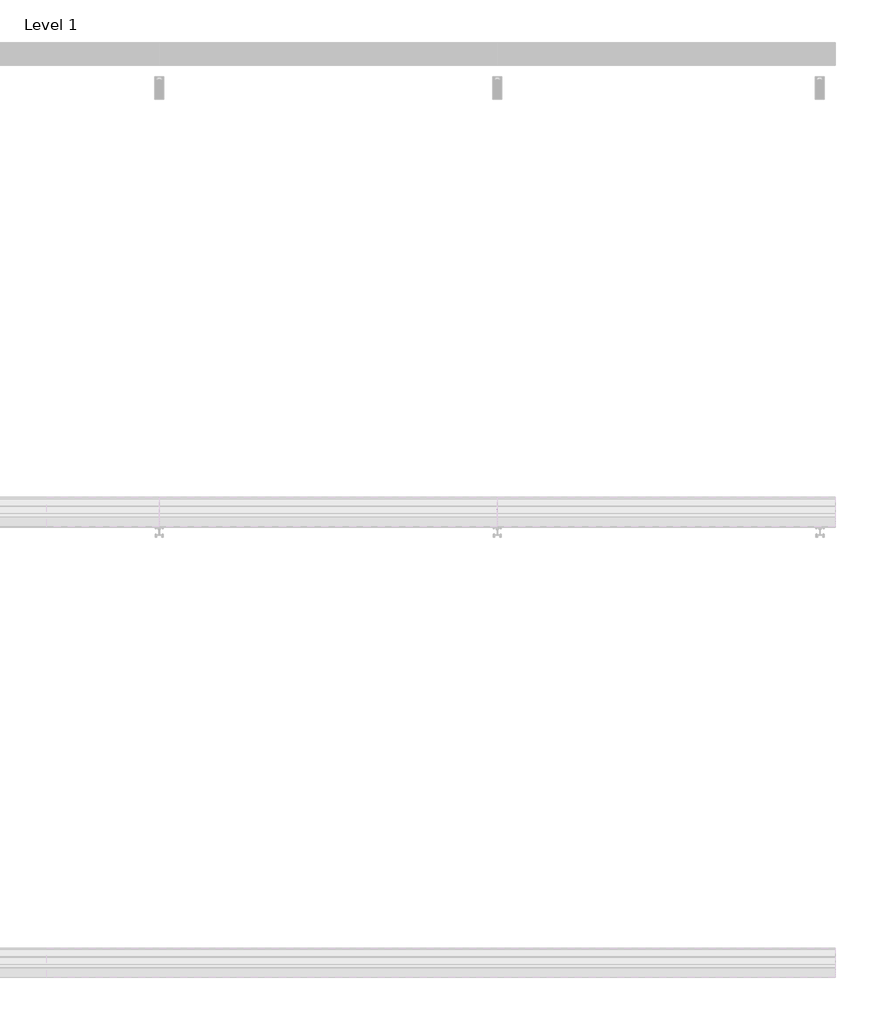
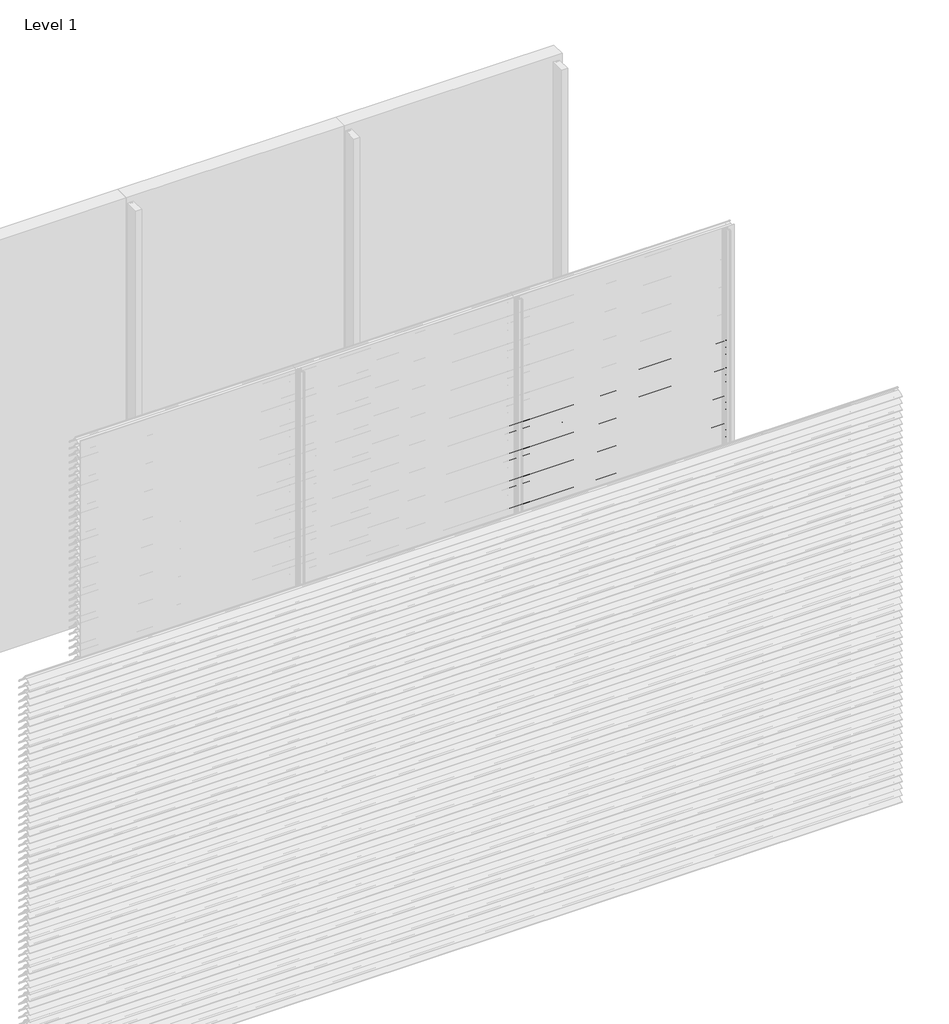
# One storey, part 52 of 173: 17 proxies.
"""IFC4 building model written with IfcOpenShell, lengths in millimetres."""

from ifc_helpers import new_model, si_unit, point, frame, frame_2d, origin, place, context, project, spatial, polyline, circle_curve, trimmed, segment, composite_curve, outline, extrude, element, save

model = new_model("IFC4")

# Units and contexts
model_context = context("Model", 3, world=origin())
ifc_project = project(units=[si_unit("LENGTHUNIT", "METRE", prefix="MILLI")], contexts=[model_context])

# Site, building, storey
site = spatial("IfcSite", under=ifc_project)
building = spatial("IfcBuilding", under=site)
storey = spatial("IfcBuildingStorey", under=building, Name="Level 1", Elevation=0.0)

# Proxies
placement = place(None, origin())
element("IfcBuildingElementProxy", 1, Name="Wall Sweeps", at=placement, inside=storey, context=model_context, shape_type="SweptSolid", body=[
    extrude(outline(composite_curve([segment(polyline([(-41998.0, 2109.1474905), (-41998.0, 2111.6227417)]), True, "CONTINUOUS"), segment(trimmed(circle_curve(frame_2d((-41951.2682172, 2066.2200208)), 65.1557103), [point((-41998.0, 2111.6227417))], [point((-41954.4014323, 2131.3003524))], False, "CARTESIAN"), True, "CONTINUOUS"), segment(polyline([(-41954.4014323, 2131.3003524), (-41934.8315836, 2131.3003524)]), True, "CONTINUOUS"), segment(trimmed(circle_curve(frame_2d((-41732.7329489, 2278.5533172)), 250.0545817), [point((-41934.8315836, 2131.3003524))], [point((-41941.4452143, 2140.8344583))], False, "CARTESIAN"), True, "CONTINUOUS"), segment(trimmed(circle_curve(frame_2d((-41953.2981792, 2135.1737835)), 13.1352966), [point((-41941.4452143, 2140.8344583))], [point((-41953.8171475, 2148.298824))], True, "CARTESIAN"), True, "CONTINUOUS"), segment(polyline([(-41953.8171475, 2148.298824), (-41953.8171475, 2150.0)]), True, "CONTINUOUS"), segment(trimmed(circle_curve(frame_2d((-41953.2981792, 2135.1737835)), 14.8352966), [point((-41953.8171475, 2150.0))], [point((-41939.9637661, 2141.6760487))], False, "CARTESIAN"), True, "CONTINUOUS"), segment(trimmed(circle_curve(frame_2d((-41732.7329489, 2278.5533172)), 248.3545817), [point((-41939.9637661, 2141.6760487))], [point((-41873.8787895, 2074.2059416))], True, "CARTESIAN"), True, "CONTINUOUS"), segment(trimmed(circle_curve(frame_2d((-41883.8147537, 2061.6649442)), 16.0), [point((-41873.8787895, 2074.2059416))], [point((-41867.8648347, 2060.4))], False, "CARTESIAN"), True, "CONTINUOUS"), segment(polyline([(-41867.8648347, 2060.4), (-41869.6712069, 2060.4)]), True, "CONTINUOUS"), segment(trimmed(circle_curve(frame_2d((-41883.8147537, 2061.6649442)), 14.2), [point((-41869.6712069, 2060.4))], [point((-41874.9518628, 2072.7594998))], True, "CARTESIAN"), True, "CONTINUOUS"), segment(trimmed(circle_curve(frame_2d((-41732.7329489, 2278.5533172)), 250.1545817), [point((-41874.9518628, 2072.7594998))], [point((-41933.7064024, 2129.6003524))], False, "CARTESIAN"), True, "CONTINUOUS"), segment(polyline([(-41933.7064024, 2129.6003524), (-41954.3602632, 2129.6003524)]), True, "CONTINUOUS"), segment(trimmed(circle_curve(frame_2d((-41951.2682172, 2066.2200208)), 63.4557103), [point((-41954.3602632, 2129.6003524))], [point((-41998.0, 2109.1474905))], True, "CARTESIAN"), True, "CONTINUOUS")], self_intersect=False)), frame((4500.0, 0.0, 0.0), z_axis=(1.0, 0.0, 0.0), x_axis=(0.0, 1.0, 0.0)), (0.0, 0.0, 1.0), 1500.0),
])
element("IfcBuildingElementProxy", 2, Name="Wall Sweeps", at=placement, inside=storey, context=model_context, shape_type="SweptSolid", body=[
    extrude(outline(composite_curve([segment(polyline([(-41998.0, 2059.1474905), (-41998.0, 2061.6227417)]), True, "CONTINUOUS"), segment(trimmed(circle_curve(frame_2d((-41951.2682172, 2016.2200208)), 65.1557103), [point((-41998.0, 2061.6227417))], [point((-41954.4014323, 2081.3003524))], False, "CARTESIAN"), True, "CONTINUOUS"), segment(polyline([(-41954.4014323, 2081.3003524), (-41934.8315836, 2081.3003524)]), True, "CONTINUOUS"), segment(trimmed(circle_curve(frame_2d((-41732.7329489, 2228.5533172)), 250.0545817), [point((-41934.8315836, 2081.3003524))], [point((-41941.4452143, 2090.8344583))], False, "CARTESIAN"), True, "CONTINUOUS"), segment(trimmed(circle_curve(frame_2d((-41953.2981792, 2085.1737835)), 13.1352966), [point((-41941.4452143, 2090.8344583))], [point((-41953.8171475, 2098.298824))], True, "CARTESIAN"), True, "CONTINUOUS"), segment(polyline([(-41953.8171475, 2098.298824), (-41953.8171475, 2100.0)]), True, "CONTINUOUS"), segment(trimmed(circle_curve(frame_2d((-41953.2981792, 2085.1737835)), 14.8352966), [point((-41953.8171475, 2100.0))], [point((-41939.9637661, 2091.6760487))], False, "CARTESIAN"), True, "CONTINUOUS"), segment(trimmed(circle_curve(frame_2d((-41732.7329489, 2228.5533172)), 248.3545817), [point((-41939.9637661, 2091.6760487))], [point((-41873.8787895, 2024.2059416))], True, "CARTESIAN"), True, "CONTINUOUS"), segment(trimmed(circle_curve(frame_2d((-41883.8147537, 2011.6649442)), 16.0), [point((-41873.8787895, 2024.2059416))], [point((-41867.8648347, 2010.4))], False, "CARTESIAN"), True, "CONTINUOUS"), segment(polyline([(-41867.8648347, 2010.4), (-41869.6712069, 2010.4)]), True, "CONTINUOUS"), segment(trimmed(circle_curve(frame_2d((-41883.8147537, 2011.6649442)), 14.2), [point((-41869.6712069, 2010.4))], [point((-41874.9518628, 2022.7594998))], True, "CARTESIAN"), True, "CONTINUOUS"), segment(trimmed(circle_curve(frame_2d((-41732.7329489, 2228.5533172)), 250.1545817), [point((-41874.9518628, 2022.7594998))], [point((-41933.7064024, 2079.6003524))], False, "CARTESIAN"), True, "CONTINUOUS"), segment(polyline([(-41933.7064024, 2079.6003524), (-41954.3602632, 2079.6003524)]), True, "CONTINUOUS"), segment(trimmed(circle_curve(frame_2d((-41951.2682172, 2016.2200208)), 63.4557103), [point((-41954.3602632, 2079.6003524))], [point((-41998.0, 2059.1474905))], True, "CARTESIAN"), True, "CONTINUOUS")], self_intersect=False)), frame((4500.0, 0.0, 0.0), z_axis=(1.0, 0.0, 0.0), x_axis=(0.0, 1.0, 0.0)), (0.0, 0.0, 1.0), 1500.0),
])
element("IfcBuildingElementProxy", 3, Name="Wall Sweeps", at=placement, inside=storey, context=model_context, shape_type="SweptSolid", body=[
    extrude(outline(composite_curve([segment(polyline([(-41998.0, 2009.1474905), (-41998.0, 2011.6227417)]), True, "CONTINUOUS"), segment(trimmed(circle_curve(frame_2d((-41951.2682172, 1966.2200208)), 65.1557103), [point((-41998.0, 2011.6227417))], [point((-41954.4014323, 2031.3003524))], False, "CARTESIAN"), True, "CONTINUOUS"), segment(polyline([(-41954.4014323, 2031.3003524), (-41934.8315836, 2031.3003524)]), True, "CONTINUOUS"), segment(trimmed(circle_curve(frame_2d((-41732.7329489, 2178.5533172)), 250.0545817), [point((-41934.8315836, 2031.3003524))], [point((-41941.4452143, 2040.8344583))], False, "CARTESIAN"), True, "CONTINUOUS"), segment(trimmed(circle_curve(frame_2d((-41953.2981792, 2035.1737835)), 13.1352966), [point((-41941.4452143, 2040.8344583))], [point((-41953.8171475, 2048.298824))], True, "CARTESIAN"), True, "CONTINUOUS"), segment(polyline([(-41953.8171475, 2048.298824), (-41953.8171475, 2050.0)]), True, "CONTINUOUS"), segment(trimmed(circle_curve(frame_2d((-41953.2981792, 2035.1737835)), 14.8352966), [point((-41953.8171475, 2050.0))], [point((-41939.9637661, 2041.6760487))], False, "CARTESIAN"), True, "CONTINUOUS"), segment(trimmed(circle_curve(frame_2d((-41732.7329489, 2178.5533172)), 248.3545817), [point((-41939.9637661, 2041.6760487))], [point((-41873.8787895, 1974.2059416))], True, "CARTESIAN"), True, "CONTINUOUS"), segment(trimmed(circle_curve(frame_2d((-41883.8147537, 1961.6649442)), 16.0), [point((-41873.8787895, 1974.2059416))], [point((-41867.8648347, 1960.4))], False, "CARTESIAN"), True, "CONTINUOUS"), segment(polyline([(-41867.8648347, 1960.4), (-41869.6712069, 1960.4)]), True, "CONTINUOUS"), segment(trimmed(circle_curve(frame_2d((-41883.8147537, 1961.6649442)), 14.2), [point((-41869.6712069, 1960.4))], [point((-41874.9518628, 1972.7594998))], True, "CARTESIAN"), True, "CONTINUOUS"), segment(trimmed(circle_curve(frame_2d((-41732.7329489, 2178.5533172)), 250.1545817), [point((-41874.9518628, 1972.7594998))], [point((-41933.7064024, 2029.6003524))], False, "CARTESIAN"), True, "CONTINUOUS"), segment(polyline([(-41933.7064024, 2029.6003524), (-41954.3602632, 2029.6003524)]), True, "CONTINUOUS"), segment(trimmed(circle_curve(frame_2d((-41951.2682172, 1966.2200208)), 63.4557103), [point((-41954.3602632, 2029.6003524))], [point((-41998.0, 2009.1474905))], True, "CARTESIAN"), True, "CONTINUOUS")], self_intersect=False)), frame((4500.0, 0.0, 0.0), z_axis=(1.0, 0.0, 0.0), x_axis=(0.0, 1.0, 0.0)), (0.0, 0.0, 1.0), 1500.0),
])
element("IfcBuildingElementProxy", 4, Name="Wall Sweeps", at=placement, inside=storey, context=model_context, shape_type="SweptSolid", body=[
    extrude(outline(composite_curve([segment(polyline([(-41998.0, 1959.1474905), (-41998.0, 1961.6227417)]), True, "CONTINUOUS"), segment(trimmed(circle_curve(frame_2d((-41951.2682172, 1916.2200208)), 65.1557103), [point((-41998.0, 1961.6227417))], [point((-41954.4014323, 1981.3003524))], False, "CARTESIAN"), True, "CONTINUOUS"), segment(polyline([(-41954.4014323, 1981.3003524), (-41934.8315836, 1981.3003524)]), True, "CONTINUOUS"), segment(trimmed(circle_curve(frame_2d((-41732.7329489, 2128.5533172)), 250.0545817), [point((-41934.8315836, 1981.3003524))], [point((-41941.4452143, 1990.8344583))], False, "CARTESIAN"), True, "CONTINUOUS"), segment(trimmed(circle_curve(frame_2d((-41953.2981792, 1985.1737835)), 13.1352966), [point((-41941.4452143, 1990.8344583))], [point((-41953.8171475, 1998.298824))], True, "CARTESIAN"), True, "CONTINUOUS"), segment(polyline([(-41953.8171475, 1998.298824), (-41953.8171475, 2000.0)]), True, "CONTINUOUS"), segment(trimmed(circle_curve(frame_2d((-41953.2981792, 1985.1737835)), 14.8352966), [point((-41953.8171475, 2000.0))], [point((-41939.9637661, 1991.6760487))], False, "CARTESIAN"), True, "CONTINUOUS"), segment(trimmed(circle_curve(frame_2d((-41732.7329489, 2128.5533172)), 248.3545817), [point((-41939.9637661, 1991.6760487))], [point((-41873.8787895, 1924.2059416))], True, "CARTESIAN"), True, "CONTINUOUS"), segment(trimmed(circle_curve(frame_2d((-41883.8147537, 1911.6649442)), 16.0), [point((-41873.8787895, 1924.2059416))], [point((-41867.8648347, 1910.4))], False, "CARTESIAN"), True, "CONTINUOUS"), segment(polyline([(-41867.8648347, 1910.4), (-41869.6712069, 1910.4)]), True, "CONTINUOUS"), segment(trimmed(circle_curve(frame_2d((-41883.8147537, 1911.6649442)), 14.2), [point((-41869.6712069, 1910.4))], [point((-41874.9518628, 1922.7594998))], True, "CARTESIAN"), True, "CONTINUOUS"), segment(trimmed(circle_curve(frame_2d((-41732.7329489, 2128.5533172)), 250.1545817), [point((-41874.9518628, 1922.7594998))], [point((-41933.7064024, 1979.6003524))], False, "CARTESIAN"), True, "CONTINUOUS"), segment(polyline([(-41933.7064024, 1979.6003524), (-41954.3602632, 1979.6003524)]), True, "CONTINUOUS"), segment(trimmed(circle_curve(frame_2d((-41951.2682172, 1916.2200208)), 63.4557103), [point((-41954.3602632, 1979.6003524))], [point((-41998.0, 1959.1474905))], True, "CARTESIAN"), True, "CONTINUOUS")], self_intersect=False)), frame((4500.0, 0.0, 0.0), z_axis=(1.0, 0.0, 0.0), x_axis=(0.0, 1.0, 0.0)), (0.0, 0.0, 1.0), 1500.0),
])
element("IfcBuildingElementProxy", 5, Name="Wall Sweeps", at=placement, inside=storey, context=model_context, shape_type="SweptSolid", body=[
    extrude(outline(composite_curve([segment(polyline([(-41998.0, 1909.1474905), (-41998.0, 1911.6227417)]), True, "CONTINUOUS"), segment(trimmed(circle_curve(frame_2d((-41951.2682172, 1866.2200208)), 65.1557103), [point((-41998.0, 1911.6227417))], [point((-41954.4014323, 1931.3003524))], False, "CARTESIAN"), True, "CONTINUOUS"), segment(polyline([(-41954.4014323, 1931.3003524), (-41934.8315836, 1931.3003524)]), True, "CONTINUOUS"), segment(trimmed(circle_curve(frame_2d((-41732.7329489, 2078.5533172)), 250.0545817), [point((-41934.8315836, 1931.3003524))], [point((-41941.4452143, 1940.8344583))], False, "CARTESIAN"), True, "CONTINUOUS"), segment(trimmed(circle_curve(frame_2d((-41953.2981792, 1935.1737835)), 13.1352966), [point((-41941.4452143, 1940.8344583))], [point((-41953.8171475, 1948.298824))], True, "CARTESIAN"), True, "CONTINUOUS"), segment(polyline([(-41953.8171475, 1948.298824), (-41953.8171475, 1950.0)]), True, "CONTINUOUS"), segment(trimmed(circle_curve(frame_2d((-41953.2981792, 1935.1737835)), 14.8352966), [point((-41953.8171475, 1950.0))], [point((-41939.9637661, 1941.6760487))], False, "CARTESIAN"), True, "CONTINUOUS"), segment(trimmed(circle_curve(frame_2d((-41732.7329489, 2078.5533172)), 248.3545817), [point((-41939.9637661, 1941.6760487))], [point((-41873.8787895, 1874.2059416))], True, "CARTESIAN"), True, "CONTINUOUS"), segment(trimmed(circle_curve(frame_2d((-41883.8147537, 1861.6649442)), 16.0), [point((-41873.8787895, 1874.2059416))], [point((-41867.8648347, 1860.4))], False, "CARTESIAN"), True, "CONTINUOUS"), segment(polyline([(-41867.8648347, 1860.4), (-41869.6712069, 1860.4)]), True, "CONTINUOUS"), segment(trimmed(circle_curve(frame_2d((-41883.8147537, 1861.6649442)), 14.2), [point((-41869.6712069, 1860.4))], [point((-41874.9518628, 1872.7594998))], True, "CARTESIAN"), True, "CONTINUOUS"), segment(trimmed(circle_curve(frame_2d((-41732.7329489, 2078.5533172)), 250.1545817), [point((-41874.9518628, 1872.7594998))], [point((-41933.7064024, 1929.6003524))], False, "CARTESIAN"), True, "CONTINUOUS"), segment(polyline([(-41933.7064024, 1929.6003524), (-41954.3602632, 1929.6003524)]), True, "CONTINUOUS"), segment(trimmed(circle_curve(frame_2d((-41951.2682172, 1866.2200208)), 63.4557103), [point((-41954.3602632, 1929.6003524))], [point((-41998.0, 1909.1474905))], True, "CARTESIAN"), True, "CONTINUOUS")], self_intersect=False)), frame((4500.0, 0.0, 0.0), z_axis=(1.0, 0.0, 0.0), x_axis=(0.0, 1.0, 0.0)), (0.0, 0.0, 1.0), 1500.0),
])
element("IfcBuildingElementProxy", 6, Name="Wall Sweeps", at=placement, inside=storey, context=model_context, shape_type="SweptSolid", body=[
    extrude(outline(composite_curve([segment(polyline([(-41998.0, 1859.1474905), (-41998.0, 1861.6227417)]), True, "CONTINUOUS"), segment(trimmed(circle_curve(frame_2d((-41951.2682172, 1816.2200208)), 65.1557103), [point((-41998.0, 1861.6227417))], [point((-41954.4014323, 1881.3003524))], False, "CARTESIAN"), True, "CONTINUOUS"), segment(polyline([(-41954.4014323, 1881.3003524), (-41934.8315836, 1881.3003524)]), True, "CONTINUOUS"), segment(trimmed(circle_curve(frame_2d((-41732.7329489, 2028.5533172)), 250.0545817), [point((-41934.8315836, 1881.3003524))], [point((-41941.4452143, 1890.8344583))], False, "CARTESIAN"), True, "CONTINUOUS"), segment(trimmed(circle_curve(frame_2d((-41953.2981792, 1885.1737835)), 13.1352966), [point((-41941.4452143, 1890.8344583))], [point((-41953.8171475, 1898.298824))], True, "CARTESIAN"), True, "CONTINUOUS"), segment(polyline([(-41953.8171475, 1898.298824), (-41953.8171475, 1900.0)]), True, "CONTINUOUS"), segment(trimmed(circle_curve(frame_2d((-41953.2981792, 1885.1737835)), 14.8352966), [point((-41953.8171475, 1900.0))], [point((-41939.9637661, 1891.6760487))], False, "CARTESIAN"), True, "CONTINUOUS"), segment(trimmed(circle_curve(frame_2d((-41732.7329489, 2028.5533172)), 248.3545817), [point((-41939.9637661, 1891.6760487))], [point((-41873.8787895, 1824.2059416))], True, "CARTESIAN"), True, "CONTINUOUS"), segment(trimmed(circle_curve(frame_2d((-41883.8147537, 1811.6649442)), 16.0), [point((-41873.8787895, 1824.2059416))], [point((-41867.8648347, 1810.4))], False, "CARTESIAN"), True, "CONTINUOUS"), segment(polyline([(-41867.8648347, 1810.4), (-41869.6712069, 1810.4)]), True, "CONTINUOUS"), segment(trimmed(circle_curve(frame_2d((-41883.8147537, 1811.6649442)), 14.2), [point((-41869.6712069, 1810.4))], [point((-41874.9518628, 1822.7594998))], True, "CARTESIAN"), True, "CONTINUOUS"), segment(trimmed(circle_curve(frame_2d((-41732.7329489, 2028.5533172)), 250.1545817), [point((-41874.9518628, 1822.7594998))], [point((-41933.7064024, 1879.6003524))], False, "CARTESIAN"), True, "CONTINUOUS"), segment(polyline([(-41933.7064024, 1879.6003524), (-41954.3602632, 1879.6003524)]), True, "CONTINUOUS"), segment(trimmed(circle_curve(frame_2d((-41951.2682172, 1816.2200208)), 63.4557103), [point((-41954.3602632, 1879.6003524))], [point((-41998.0, 1859.1474905))], True, "CARTESIAN"), True, "CONTINUOUS")], self_intersect=False)), frame((4500.0, 0.0, 0.0), z_axis=(1.0, 0.0, 0.0), x_axis=(0.0, 1.0, 0.0)), (0.0, 0.0, 1.0), 1500.0),
])
element("IfcBuildingElementProxy", 7, Name="Wall Sweeps", at=placement, inside=storey, context=model_context, shape_type="SweptSolid", body=[
    extrude(outline(composite_curve([segment(polyline([(-41998.0, 1809.1474905), (-41998.0, 1811.6227417)]), True, "CONTINUOUS"), segment(trimmed(circle_curve(frame_2d((-41951.2682172, 1766.2200208)), 65.1557103), [point((-41998.0, 1811.6227417))], [point((-41954.4014323, 1831.3003524))], False, "CARTESIAN"), True, "CONTINUOUS"), segment(polyline([(-41954.4014323, 1831.3003524), (-41934.8315836, 1831.3003524)]), True, "CONTINUOUS"), segment(trimmed(circle_curve(frame_2d((-41732.7329489, 1978.5533172)), 250.0545817), [point((-41934.8315836, 1831.3003524))], [point((-41941.4452143, 1840.8344583))], False, "CARTESIAN"), True, "CONTINUOUS"), segment(trimmed(circle_curve(frame_2d((-41953.2981792, 1835.1737835)), 13.1352966), [point((-41941.4452143, 1840.8344583))], [point((-41953.8171475, 1848.298824))], True, "CARTESIAN"), True, "CONTINUOUS"), segment(polyline([(-41953.8171475, 1848.298824), (-41953.8171475, 1850.0)]), True, "CONTINUOUS"), segment(trimmed(circle_curve(frame_2d((-41953.2981792, 1835.1737835)), 14.8352966), [point((-41953.8171475, 1850.0))], [point((-41939.9637661, 1841.6760487))], False, "CARTESIAN"), True, "CONTINUOUS"), segment(trimmed(circle_curve(frame_2d((-41732.7329489, 1978.5533172)), 248.3545817), [point((-41939.9637661, 1841.6760487))], [point((-41873.8787895, 1774.2059416))], True, "CARTESIAN"), True, "CONTINUOUS"), segment(trimmed(circle_curve(frame_2d((-41883.8147537, 1761.6649442)), 16.0), [point((-41873.8787895, 1774.2059416))], [point((-41867.8648347, 1760.4))], False, "CARTESIAN"), True, "CONTINUOUS"), segment(polyline([(-41867.8648347, 1760.4), (-41869.6712069, 1760.4)]), True, "CONTINUOUS"), segment(trimmed(circle_curve(frame_2d((-41883.8147537, 1761.6649442)), 14.2), [point((-41869.6712069, 1760.4))], [point((-41874.9518628, 1772.7594998))], True, "CARTESIAN"), True, "CONTINUOUS"), segment(trimmed(circle_curve(frame_2d((-41732.7329489, 1978.5533172)), 250.1545817), [point((-41874.9518628, 1772.7594998))], [point((-41933.7064024, 1829.6003524))], False, "CARTESIAN"), True, "CONTINUOUS"), segment(polyline([(-41933.7064024, 1829.6003524), (-41954.3602632, 1829.6003524)]), True, "CONTINUOUS"), segment(trimmed(circle_curve(frame_2d((-41951.2682172, 1766.2200208)), 63.4557103), [point((-41954.3602632, 1829.6003524))], [point((-41998.0, 1809.1474905))], True, "CARTESIAN"), True, "CONTINUOUS")], self_intersect=False)), frame((4500.0, 0.0, 0.0), z_axis=(1.0, 0.0, 0.0), x_axis=(0.0, 1.0, 0.0)), (0.0, 0.0, 1.0), 1500.0),
])
element("IfcBuildingElementProxy", 8, Name="Wall Sweeps", at=placement, inside=storey, context=model_context, shape_type="SweptSolid", body=[
    extrude(outline(composite_curve([segment(polyline([(-41998.0, 1759.1474905), (-41998.0, 1761.6227417)]), True, "CONTINUOUS"), segment(trimmed(circle_curve(frame_2d((-41951.2682172, 1716.2200208)), 65.1557103), [point((-41998.0, 1761.6227417))], [point((-41954.4014323, 1781.3003524))], False, "CARTESIAN"), True, "CONTINUOUS"), segment(polyline([(-41954.4014323, 1781.3003524), (-41934.8315836, 1781.3003524)]), True, "CONTINUOUS"), segment(trimmed(circle_curve(frame_2d((-41732.7329489, 1928.5533172)), 250.0545817), [point((-41934.8315836, 1781.3003524))], [point((-41941.4452143, 1790.8344583))], False, "CARTESIAN"), True, "CONTINUOUS"), segment(trimmed(circle_curve(frame_2d((-41953.2981792, 1785.1737835)), 13.1352966), [point((-41941.4452143, 1790.8344583))], [point((-41953.8171475, 1798.298824))], True, "CARTESIAN"), True, "CONTINUOUS"), segment(polyline([(-41953.8171475, 1798.298824), (-41953.8171475, 1800.0)]), True, "CONTINUOUS"), segment(trimmed(circle_curve(frame_2d((-41953.2981792, 1785.1737835)), 14.8352966), [point((-41953.8171475, 1800.0))], [point((-41939.9637661, 1791.6760487))], False, "CARTESIAN"), True, "CONTINUOUS"), segment(trimmed(circle_curve(frame_2d((-41732.7329489, 1928.5533172)), 248.3545817), [point((-41939.9637661, 1791.6760487))], [point((-41873.8787895, 1724.2059416))], True, "CARTESIAN"), True, "CONTINUOUS"), segment(trimmed(circle_curve(frame_2d((-41883.8147537, 1711.6649442)), 16.0), [point((-41873.8787895, 1724.2059416))], [point((-41867.8648347, 1710.4))], False, "CARTESIAN"), True, "CONTINUOUS"), segment(polyline([(-41867.8648347, 1710.4), (-41869.6712069, 1710.4)]), True, "CONTINUOUS"), segment(trimmed(circle_curve(frame_2d((-41883.8147537, 1711.6649442)), 14.2), [point((-41869.6712069, 1710.4))], [point((-41874.9518628, 1722.7594998))], True, "CARTESIAN"), True, "CONTINUOUS"), segment(trimmed(circle_curve(frame_2d((-41732.7329489, 1928.5533172)), 250.1545817), [point((-41874.9518628, 1722.7594998))], [point((-41933.7064024, 1779.6003524))], False, "CARTESIAN"), True, "CONTINUOUS"), segment(polyline([(-41933.7064024, 1779.6003524), (-41954.3602632, 1779.6003524)]), True, "CONTINUOUS"), segment(trimmed(circle_curve(frame_2d((-41951.2682172, 1716.2200208)), 63.4557103), [point((-41954.3602632, 1779.6003524))], [point((-41998.0, 1759.1474905))], True, "CARTESIAN"), True, "CONTINUOUS")], self_intersect=False)), frame((4500.0, 0.0, 0.0), z_axis=(1.0, 0.0, 0.0), x_axis=(0.0, 1.0, 0.0)), (0.0, 0.0, 1.0), 1500.0),
])
element("IfcBuildingElementProxy", 9, Name="Wall Sweeps", at=placement, inside=storey, context=model_context, shape_type="SweptSolid", body=[
    extrude(outline(composite_curve([segment(polyline([(-41998.0, 1709.1474905), (-41998.0, 1711.6227417)]), True, "CONTINUOUS"), segment(trimmed(circle_curve(frame_2d((-41951.2682172, 1666.2200208)), 65.1557103), [point((-41998.0, 1711.6227417))], [point((-41954.4014323, 1731.3003524))], False, "CARTESIAN"), True, "CONTINUOUS"), segment(polyline([(-41954.4014323, 1731.3003524), (-41934.8315836, 1731.3003524)]), True, "CONTINUOUS"), segment(trimmed(circle_curve(frame_2d((-41732.7329489, 1878.5533172)), 250.0545817), [point((-41934.8315836, 1731.3003524))], [point((-41941.4452143, 1740.8344583))], False, "CARTESIAN"), True, "CONTINUOUS"), segment(trimmed(circle_curve(frame_2d((-41953.2981792, 1735.1737835)), 13.1352966), [point((-41941.4452143, 1740.8344583))], [point((-41953.8171475, 1748.298824))], True, "CARTESIAN"), True, "CONTINUOUS"), segment(polyline([(-41953.8171475, 1748.298824), (-41953.8171475, 1750.0)]), True, "CONTINUOUS"), segment(trimmed(circle_curve(frame_2d((-41953.2981792, 1735.1737835)), 14.8352966), [point((-41953.8171475, 1750.0))], [point((-41939.9637661, 1741.6760487))], False, "CARTESIAN"), True, "CONTINUOUS"), segment(trimmed(circle_curve(frame_2d((-41732.7329489, 1878.5533172)), 248.3545817), [point((-41939.9637661, 1741.6760487))], [point((-41873.8787895, 1674.2059416))], True, "CARTESIAN"), True, "CONTINUOUS"), segment(trimmed(circle_curve(frame_2d((-41883.8147537, 1661.6649442)), 16.0), [point((-41873.8787895, 1674.2059416))], [point((-41867.8648347, 1660.4))], False, "CARTESIAN"), True, "CONTINUOUS"), segment(polyline([(-41867.8648347, 1660.4), (-41869.6712069, 1660.4)]), True, "CONTINUOUS"), segment(trimmed(circle_curve(frame_2d((-41883.8147537, 1661.6649442)), 14.2), [point((-41869.6712069, 1660.4))], [point((-41874.9518628, 1672.7594998))], True, "CARTESIAN"), True, "CONTINUOUS"), segment(trimmed(circle_curve(frame_2d((-41732.7329489, 1878.5533172)), 250.1545817), [point((-41874.9518628, 1672.7594998))], [point((-41933.7064024, 1729.6003524))], False, "CARTESIAN"), True, "CONTINUOUS"), segment(polyline([(-41933.7064024, 1729.6003524), (-41954.3602632, 1729.6003524)]), True, "CONTINUOUS"), segment(trimmed(circle_curve(frame_2d((-41951.2682172, 1666.2200208)), 63.4557103), [point((-41954.3602632, 1729.6003524))], [point((-41998.0, 1709.1474905))], True, "CARTESIAN"), True, "CONTINUOUS")], self_intersect=False)), frame((4500.0, 0.0, 0.0), z_axis=(1.0, 0.0, 0.0), x_axis=(0.0, 1.0, 0.0)), (0.0, 0.0, 1.0), 1500.0),
])
element("IfcBuildingElementProxy", 10, Name="Wall Sweeps", at=placement, inside=storey, context=model_context, shape_type="SweptSolid", body=[
    extrude(outline(composite_curve([segment(polyline([(-41998.0, 1659.1474905), (-41998.0, 1661.6227417)]), True, "CONTINUOUS"), segment(trimmed(circle_curve(frame_2d((-41951.2682172, 1616.2200208)), 65.1557103), [point((-41998.0, 1661.6227417))], [point((-41954.4014323, 1681.3003524))], False, "CARTESIAN"), True, "CONTINUOUS"), segment(polyline([(-41954.4014323, 1681.3003524), (-41934.8315836, 1681.3003524)]), True, "CONTINUOUS"), segment(trimmed(circle_curve(frame_2d((-41732.7329489, 1828.5533172)), 250.0545817), [point((-41934.8315836, 1681.3003524))], [point((-41941.4452143, 1690.8344583))], False, "CARTESIAN"), True, "CONTINUOUS"), segment(trimmed(circle_curve(frame_2d((-41953.2981792, 1685.1737835)), 13.1352966), [point((-41941.4452143, 1690.8344583))], [point((-41953.8171475, 1698.298824))], True, "CARTESIAN"), True, "CONTINUOUS"), segment(polyline([(-41953.8171475, 1698.298824), (-41953.8171475, 1700.0)]), True, "CONTINUOUS"), segment(trimmed(circle_curve(frame_2d((-41953.2981792, 1685.1737835)), 14.8352966), [point((-41953.8171475, 1700.0))], [point((-41939.9637661, 1691.6760487))], False, "CARTESIAN"), True, "CONTINUOUS"), segment(trimmed(circle_curve(frame_2d((-41732.7329489, 1828.5533172)), 248.3545817), [point((-41939.9637661, 1691.6760487))], [point((-41873.8787895, 1624.2059416))], True, "CARTESIAN"), True, "CONTINUOUS"), segment(trimmed(circle_curve(frame_2d((-41883.8147537, 1611.6649442)), 16.0), [point((-41873.8787895, 1624.2059416))], [point((-41867.8648347, 1610.4))], False, "CARTESIAN"), True, "CONTINUOUS"), segment(polyline([(-41867.8648347, 1610.4), (-41869.6712069, 1610.4)]), True, "CONTINUOUS"), segment(trimmed(circle_curve(frame_2d((-41883.8147537, 1611.6649442)), 14.2), [point((-41869.6712069, 1610.4))], [point((-41874.9518628, 1622.7594998))], True, "CARTESIAN"), True, "CONTINUOUS"), segment(trimmed(circle_curve(frame_2d((-41732.7329489, 1828.5533172)), 250.1545817), [point((-41874.9518628, 1622.7594998))], [point((-41933.7064024, 1679.6003524))], False, "CARTESIAN"), True, "CONTINUOUS"), segment(polyline([(-41933.7064024, 1679.6003524), (-41954.3602632, 1679.6003524)]), True, "CONTINUOUS"), segment(trimmed(circle_curve(frame_2d((-41951.2682172, 1616.2200208)), 63.4557103), [point((-41954.3602632, 1679.6003524))], [point((-41998.0, 1659.1474905))], True, "CARTESIAN"), True, "CONTINUOUS")], self_intersect=False)), frame((4500.0, 0.0, 0.0), z_axis=(1.0, 0.0, 0.0), x_axis=(0.0, 1.0, 0.0)), (0.0, 0.0, 1.0), 1500.0),
])
element("IfcBuildingElementProxy", 11, Name="Wall Sweeps", at=placement, inside=storey, context=model_context, shape_type="SweptSolid", body=[
    extrude(outline(composite_curve([segment(polyline([(-41998.0, 1609.1474905), (-41998.0, 1611.6227417)]), True, "CONTINUOUS"), segment(trimmed(circle_curve(frame_2d((-41951.2682172, 1566.2200208)), 65.1557103), [point((-41998.0, 1611.6227417))], [point((-41954.4014323, 1631.3003524))], False, "CARTESIAN"), True, "CONTINUOUS"), segment(polyline([(-41954.4014323, 1631.3003524), (-41934.8315836, 1631.3003524)]), True, "CONTINUOUS"), segment(trimmed(circle_curve(frame_2d((-41732.7329489, 1778.5533172)), 250.0545817), [point((-41934.8315836, 1631.3003524))], [point((-41941.4452143, 1640.8344583))], False, "CARTESIAN"), True, "CONTINUOUS"), segment(trimmed(circle_curve(frame_2d((-41953.2981792, 1635.1737835)), 13.1352966), [point((-41941.4452143, 1640.8344583))], [point((-41953.8171475, 1648.298824))], True, "CARTESIAN"), True, "CONTINUOUS"), segment(polyline([(-41953.8171475, 1648.298824), (-41953.8171475, 1650.0)]), True, "CONTINUOUS"), segment(trimmed(circle_curve(frame_2d((-41953.2981792, 1635.1737835)), 14.8352966), [point((-41953.8171475, 1650.0))], [point((-41939.9637661, 1641.6760487))], False, "CARTESIAN"), True, "CONTINUOUS"), segment(trimmed(circle_curve(frame_2d((-41732.7329489, 1778.5533172)), 248.3545817), [point((-41939.9637661, 1641.6760487))], [point((-41873.8787895, 1574.2059416))], True, "CARTESIAN"), True, "CONTINUOUS"), segment(trimmed(circle_curve(frame_2d((-41883.8147537, 1561.6649442)), 16.0), [point((-41873.8787895, 1574.2059416))], [point((-41867.8648347, 1560.4))], False, "CARTESIAN"), True, "CONTINUOUS"), segment(polyline([(-41867.8648347, 1560.4), (-41869.6712069, 1560.4)]), True, "CONTINUOUS"), segment(trimmed(circle_curve(frame_2d((-41883.8147537, 1561.6649442)), 14.2), [point((-41869.6712069, 1560.4))], [point((-41874.9518628, 1572.7594998))], True, "CARTESIAN"), True, "CONTINUOUS"), segment(trimmed(circle_curve(frame_2d((-41732.7329489, 1778.5533172)), 250.1545817), [point((-41874.9518628, 1572.7594998))], [point((-41933.7064024, 1629.6003524))], False, "CARTESIAN"), True, "CONTINUOUS"), segment(polyline([(-41933.7064024, 1629.6003524), (-41954.3602632, 1629.6003524)]), True, "CONTINUOUS"), segment(trimmed(circle_curve(frame_2d((-41951.2682172, 1566.2200208)), 63.4557103), [point((-41954.3602632, 1629.6003524))], [point((-41998.0, 1609.1474905))], True, "CARTESIAN"), True, "CONTINUOUS")], self_intersect=False)), frame((4500.0, 0.0, 0.0), z_axis=(1.0, 0.0, 0.0), x_axis=(0.0, 1.0, 0.0)), (0.0, 0.0, 1.0), 1500.0),
])
element("IfcBuildingElementProxy", 12, Name="Wall Sweeps", at=placement, inside=storey, context=model_context, shape_type="SweptSolid", body=[
    extrude(outline(composite_curve([segment(polyline([(-41998.0, 1559.1474905), (-41998.0, 1561.6227417)]), True, "CONTINUOUS"), segment(trimmed(circle_curve(frame_2d((-41951.2682172, 1516.2200208)), 65.1557103), [point((-41998.0, 1561.6227417))], [point((-41954.4014323, 1581.3003524))], False, "CARTESIAN"), True, "CONTINUOUS"), segment(polyline([(-41954.4014323, 1581.3003524), (-41934.8315836, 1581.3003524)]), True, "CONTINUOUS"), segment(trimmed(circle_curve(frame_2d((-41732.7329489, 1728.5533172)), 250.0545817), [point((-41934.8315836, 1581.3003524))], [point((-41941.4452143, 1590.8344583))], False, "CARTESIAN"), True, "CONTINUOUS"), segment(trimmed(circle_curve(frame_2d((-41953.2981792, 1585.1737835)), 13.1352966), [point((-41941.4452143, 1590.8344583))], [point((-41953.8171475, 1598.298824))], True, "CARTESIAN"), True, "CONTINUOUS"), segment(polyline([(-41953.8171475, 1598.298824), (-41953.8171475, 1600.0)]), True, "CONTINUOUS"), segment(trimmed(circle_curve(frame_2d((-41953.2981792, 1585.1737835)), 14.8352966), [point((-41953.8171475, 1600.0))], [point((-41939.9637661, 1591.6760487))], False, "CARTESIAN"), True, "CONTINUOUS"), segment(trimmed(circle_curve(frame_2d((-41732.7329489, 1728.5533172)), 248.3545817), [point((-41939.9637661, 1591.6760487))], [point((-41873.8787895, 1524.2059416))], True, "CARTESIAN"), True, "CONTINUOUS"), segment(trimmed(circle_curve(frame_2d((-41883.8147537, 1511.6649442)), 16.0), [point((-41873.8787895, 1524.2059416))], [point((-41867.8648347, 1510.4))], False, "CARTESIAN"), True, "CONTINUOUS"), segment(polyline([(-41867.8648347, 1510.4), (-41869.6712069, 1510.4)]), True, "CONTINUOUS"), segment(trimmed(circle_curve(frame_2d((-41883.8147537, 1511.6649442)), 14.2), [point((-41869.6712069, 1510.4))], [point((-41874.9518628, 1522.7594998))], True, "CARTESIAN"), True, "CONTINUOUS"), segment(trimmed(circle_curve(frame_2d((-41732.7329489, 1728.5533172)), 250.1545817), [point((-41874.9518628, 1522.7594998))], [point((-41933.7064024, 1579.6003524))], False, "CARTESIAN"), True, "CONTINUOUS"), segment(polyline([(-41933.7064024, 1579.6003524), (-41954.3602632, 1579.6003524)]), True, "CONTINUOUS"), segment(trimmed(circle_curve(frame_2d((-41951.2682172, 1516.2200208)), 63.4557103), [point((-41954.3602632, 1579.6003524))], [point((-41998.0, 1559.1474905))], True, "CARTESIAN"), True, "CONTINUOUS")], self_intersect=False)), frame((4500.0, 0.0, 0.0), z_axis=(1.0, 0.0, 0.0), x_axis=(0.0, 1.0, 0.0)), (0.0, 0.0, 1.0), 1500.0),
])
element("IfcBuildingElementProxy", 13, Name="Wall Sweeps", at=placement, inside=storey, context=model_context, shape_type="SweptSolid", body=[
    extrude(outline(composite_curve([segment(polyline([(-41998.0, 1509.1474905), (-41998.0, 1511.6227417)]), True, "CONTINUOUS"), segment(trimmed(circle_curve(frame_2d((-41951.2682172, 1466.2200208)), 65.1557103), [point((-41998.0, 1511.6227417))], [point((-41954.4014323, 1531.3003524))], False, "CARTESIAN"), True, "CONTINUOUS"), segment(polyline([(-41954.4014323, 1531.3003524), (-41934.8315836, 1531.3003524)]), True, "CONTINUOUS"), segment(trimmed(circle_curve(frame_2d((-41732.7329489, 1678.5533172)), 250.0545817), [point((-41934.8315836, 1531.3003524))], [point((-41941.4452143, 1540.8344583))], False, "CARTESIAN"), True, "CONTINUOUS"), segment(trimmed(circle_curve(frame_2d((-41953.2981792, 1535.1737835)), 13.1352966), [point((-41941.4452143, 1540.8344583))], [point((-41953.8171475, 1548.298824))], True, "CARTESIAN"), True, "CONTINUOUS"), segment(polyline([(-41953.8171475, 1548.298824), (-41953.8171475, 1550.0)]), True, "CONTINUOUS"), segment(trimmed(circle_curve(frame_2d((-41953.2981792, 1535.1737835)), 14.8352966), [point((-41953.8171475, 1550.0))], [point((-41939.9637661, 1541.6760487))], False, "CARTESIAN"), True, "CONTINUOUS"), segment(trimmed(circle_curve(frame_2d((-41732.7329489, 1678.5533172)), 248.3545817), [point((-41939.9637661, 1541.6760487))], [point((-41873.8787895, 1474.2059416))], True, "CARTESIAN"), True, "CONTINUOUS"), segment(trimmed(circle_curve(frame_2d((-41883.8147537, 1461.6649442)), 16.0), [point((-41873.8787895, 1474.2059416))], [point((-41867.8648347, 1460.4))], False, "CARTESIAN"), True, "CONTINUOUS"), segment(polyline([(-41867.8648347, 1460.4), (-41869.6712069, 1460.4)]), True, "CONTINUOUS"), segment(trimmed(circle_curve(frame_2d((-41883.8147537, 1461.6649442)), 14.2), [point((-41869.6712069, 1460.4))], [point((-41874.9518628, 1472.7594998))], True, "CARTESIAN"), True, "CONTINUOUS"), segment(trimmed(circle_curve(frame_2d((-41732.7329489, 1678.5533172)), 250.1545817), [point((-41874.9518628, 1472.7594998))], [point((-41933.7064024, 1529.6003524))], False, "CARTESIAN"), True, "CONTINUOUS"), segment(polyline([(-41933.7064024, 1529.6003524), (-41954.3602632, 1529.6003524)]), True, "CONTINUOUS"), segment(trimmed(circle_curve(frame_2d((-41951.2682172, 1466.2200208)), 63.4557103), [point((-41954.3602632, 1529.6003524))], [point((-41998.0, 1509.1474905))], True, "CARTESIAN"), True, "CONTINUOUS")], self_intersect=False)), frame((4500.0, 0.0, 0.0), z_axis=(1.0, 0.0, 0.0), x_axis=(0.0, 1.0, 0.0)), (0.0, 0.0, 1.0), 1500.0),
])
element("IfcBuildingElementProxy", 14, Name="Wall Sweeps", at=placement, inside=storey, context=model_context, shape_type="SweptSolid", body=[
    extrude(outline(composite_curve([segment(polyline([(-41998.0, 1459.1474905), (-41998.0, 1461.6227417)]), True, "CONTINUOUS"), segment(trimmed(circle_curve(frame_2d((-41951.2682172, 1416.2200208)), 65.1557103), [point((-41998.0, 1461.6227417))], [point((-41954.4014323, 1481.3003524))], False, "CARTESIAN"), True, "CONTINUOUS"), segment(polyline([(-41954.4014323, 1481.3003524), (-41934.8315836, 1481.3003524)]), True, "CONTINUOUS"), segment(trimmed(circle_curve(frame_2d((-41732.7329489, 1628.5533172)), 250.0545817), [point((-41934.8315836, 1481.3003524))], [point((-41941.4452143, 1490.8344583))], False, "CARTESIAN"), True, "CONTINUOUS"), segment(trimmed(circle_curve(frame_2d((-41953.2981792, 1485.1737835)), 13.1352966), [point((-41941.4452143, 1490.8344583))], [point((-41953.8171475, 1498.298824))], True, "CARTESIAN"), True, "CONTINUOUS"), segment(polyline([(-41953.8171475, 1498.298824), (-41953.8171475, 1500.0)]), True, "CONTINUOUS"), segment(trimmed(circle_curve(frame_2d((-41953.2981792, 1485.1737835)), 14.8352966), [point((-41953.8171475, 1500.0))], [point((-41939.9637661, 1491.6760487))], False, "CARTESIAN"), True, "CONTINUOUS"), segment(trimmed(circle_curve(frame_2d((-41732.7329489, 1628.5533172)), 248.3545817), [point((-41939.9637661, 1491.6760487))], [point((-41873.8787895, 1424.2059416))], True, "CARTESIAN"), True, "CONTINUOUS"), segment(trimmed(circle_curve(frame_2d((-41883.8147537, 1411.6649442)), 16.0), [point((-41873.8787895, 1424.2059416))], [point((-41867.8648347, 1410.4))], False, "CARTESIAN"), True, "CONTINUOUS"), segment(polyline([(-41867.8648347, 1410.4), (-41869.6712069, 1410.4)]), True, "CONTINUOUS"), segment(trimmed(circle_curve(frame_2d((-41883.8147537, 1411.6649442)), 14.2), [point((-41869.6712069, 1410.4))], [point((-41874.9518628, 1422.7594998))], True, "CARTESIAN"), True, "CONTINUOUS"), segment(trimmed(circle_curve(frame_2d((-41732.7329489, 1628.5533172)), 250.1545817), [point((-41874.9518628, 1422.7594998))], [point((-41933.7064024, 1479.6003524))], False, "CARTESIAN"), True, "CONTINUOUS"), segment(polyline([(-41933.7064024, 1479.6003524), (-41954.3602632, 1479.6003524)]), True, "CONTINUOUS"), segment(trimmed(circle_curve(frame_2d((-41951.2682172, 1416.2200208)), 63.4557103), [point((-41954.3602632, 1479.6003524))], [point((-41998.0, 1459.1474905))], True, "CARTESIAN"), True, "CONTINUOUS")], self_intersect=False)), frame((4500.0, 0.0, 0.0), z_axis=(1.0, 0.0, 0.0), x_axis=(0.0, 1.0, 0.0)), (0.0, 0.0, 1.0), 1500.0),
])
element("IfcBuildingElementProxy", 15, Name="Wall Sweeps", at=placement, inside=storey, context=model_context, shape_type="SweptSolid", body=[
    extrude(outline(composite_curve([segment(polyline([(-41998.0, 1409.1474905), (-41998.0, 1411.6227417)]), True, "CONTINUOUS"), segment(trimmed(circle_curve(frame_2d((-41951.2682172, 1366.2200208)), 65.1557103), [point((-41998.0, 1411.6227417))], [point((-41954.4014323, 1431.3003524))], False, "CARTESIAN"), True, "CONTINUOUS"), segment(polyline([(-41954.4014323, 1431.3003524), (-41934.8315836, 1431.3003524)]), True, "CONTINUOUS"), segment(trimmed(circle_curve(frame_2d((-41732.7329489, 1578.5533172)), 250.0545817), [point((-41934.8315836, 1431.3003524))], [point((-41941.4452143, 1440.8344583))], False, "CARTESIAN"), True, "CONTINUOUS"), segment(trimmed(circle_curve(frame_2d((-41953.2981792, 1435.1737835)), 13.1352966), [point((-41941.4452143, 1440.8344583))], [point((-41953.8171475, 1448.298824))], True, "CARTESIAN"), True, "CONTINUOUS"), segment(polyline([(-41953.8171475, 1448.298824), (-41953.8171475, 1450.0)]), True, "CONTINUOUS"), segment(trimmed(circle_curve(frame_2d((-41953.2981792, 1435.1737835)), 14.8352966), [point((-41953.8171475, 1450.0))], [point((-41939.9637661, 1441.6760487))], False, "CARTESIAN"), True, "CONTINUOUS"), segment(trimmed(circle_curve(frame_2d((-41732.7329489, 1578.5533172)), 248.3545817), [point((-41939.9637661, 1441.6760487))], [point((-41873.8787895, 1374.2059416))], True, "CARTESIAN"), True, "CONTINUOUS"), segment(trimmed(circle_curve(frame_2d((-41883.8147537, 1361.6649442)), 16.0), [point((-41873.8787895, 1374.2059416))], [point((-41867.8648347, 1360.4))], False, "CARTESIAN"), True, "CONTINUOUS"), segment(polyline([(-41867.8648347, 1360.4), (-41869.6712069, 1360.4)]), True, "CONTINUOUS"), segment(trimmed(circle_curve(frame_2d((-41883.8147537, 1361.6649442)), 14.2), [point((-41869.6712069, 1360.4))], [point((-41874.9518628, 1372.7594998))], True, "CARTESIAN"), True, "CONTINUOUS"), segment(trimmed(circle_curve(frame_2d((-41732.7329489, 1578.5533172)), 250.1545817), [point((-41874.9518628, 1372.7594998))], [point((-41933.7064024, 1429.6003524))], False, "CARTESIAN"), True, "CONTINUOUS"), segment(polyline([(-41933.7064024, 1429.6003524), (-41954.3602632, 1429.6003524)]), True, "CONTINUOUS"), segment(trimmed(circle_curve(frame_2d((-41951.2682172, 1366.2200208)), 63.4557103), [point((-41954.3602632, 1429.6003524))], [point((-41998.0, 1409.1474905))], True, "CARTESIAN"), True, "CONTINUOUS")], self_intersect=False)), frame((4500.0, 0.0, 0.0), z_axis=(1.0, 0.0, 0.0), x_axis=(0.0, 1.0, 0.0)), (0.0, 0.0, 1.0), 1500.0),
])
element("IfcBuildingElementProxy", 16, Name="Wall Sweeps", at=placement, inside=storey, context=model_context, shape_type="SweptSolid", body=[
    extrude(outline(composite_curve([segment(polyline([(-41998.0, 1359.1474905), (-41998.0, 1361.6227417)]), True, "CONTINUOUS"), segment(trimmed(circle_curve(frame_2d((-41951.2682172, 1316.2200208)), 65.1557103), [point((-41998.0, 1361.6227417))], [point((-41954.4014323, 1381.3003524))], False, "CARTESIAN"), True, "CONTINUOUS"), segment(polyline([(-41954.4014323, 1381.3003524), (-41934.8315836, 1381.3003524)]), True, "CONTINUOUS"), segment(trimmed(circle_curve(frame_2d((-41732.7329489, 1528.5533172)), 250.0545817), [point((-41934.8315836, 1381.3003524))], [point((-41941.4452143, 1390.8344583))], False, "CARTESIAN"), True, "CONTINUOUS"), segment(trimmed(circle_curve(frame_2d((-41953.2981792, 1385.1737835)), 13.1352966), [point((-41941.4452143, 1390.8344583))], [point((-41953.8171475, 1398.298824))], True, "CARTESIAN"), True, "CONTINUOUS"), segment(polyline([(-41953.8171475, 1398.298824), (-41953.8171475, 1400.0)]), True, "CONTINUOUS"), segment(trimmed(circle_curve(frame_2d((-41953.2981792, 1385.1737835)), 14.8352966), [point((-41953.8171475, 1400.0))], [point((-41939.9637661, 1391.6760487))], False, "CARTESIAN"), True, "CONTINUOUS"), segment(trimmed(circle_curve(frame_2d((-41732.7329489, 1528.5533172)), 248.3545817), [point((-41939.9637661, 1391.6760487))], [point((-41873.8787895, 1324.2059416))], True, "CARTESIAN"), True, "CONTINUOUS"), segment(trimmed(circle_curve(frame_2d((-41883.8147537, 1311.6649442)), 16.0), [point((-41873.8787895, 1324.2059416))], [point((-41867.8648347, 1310.4))], False, "CARTESIAN"), True, "CONTINUOUS"), segment(polyline([(-41867.8648347, 1310.4), (-41869.6712069, 1310.4)]), True, "CONTINUOUS"), segment(trimmed(circle_curve(frame_2d((-41883.8147537, 1311.6649442)), 14.2), [point((-41869.6712069, 1310.4))], [point((-41874.9518628, 1322.7594998))], True, "CARTESIAN"), True, "CONTINUOUS"), segment(trimmed(circle_curve(frame_2d((-41732.7329489, 1528.5533172)), 250.1545817), [point((-41874.9518628, 1322.7594998))], [point((-41933.7064024, 1379.6003524))], False, "CARTESIAN"), True, "CONTINUOUS"), segment(polyline([(-41933.7064024, 1379.6003524), (-41954.3602632, 1379.6003524)]), True, "CONTINUOUS"), segment(trimmed(circle_curve(frame_2d((-41951.2682172, 1316.2200208)), 63.4557103), [point((-41954.3602632, 1379.6003524))], [point((-41998.0, 1359.1474905))], True, "CARTESIAN"), True, "CONTINUOUS")], self_intersect=False)), frame((4500.0, 0.0, 0.0), z_axis=(1.0, 0.0, 0.0), x_axis=(0.0, 1.0, 0.0)), (0.0, 0.0, 1.0), 1500.0),
])
element("IfcBuildingElementProxy", 17, Name="Wall Sweeps", at=placement, inside=storey, context=model_context, shape_type="SweptSolid", body=[
    extrude(outline(composite_curve([segment(polyline([(-41998.0, 1309.1474905), (-41998.0, 1311.6227417)]), True, "CONTINUOUS"), segment(trimmed(circle_curve(frame_2d((-41951.2682172, 1266.2200208)), 65.1557103), [point((-41998.0, 1311.6227417))], [point((-41954.4014323, 1331.3003524))], False, "CARTESIAN"), True, "CONTINUOUS"), segment(polyline([(-41954.4014323, 1331.3003524), (-41934.8315836, 1331.3003524)]), True, "CONTINUOUS"), segment(trimmed(circle_curve(frame_2d((-41732.7329489, 1478.5533172)), 250.0545817), [point((-41934.8315836, 1331.3003524))], [point((-41941.4452143, 1340.8344583))], False, "CARTESIAN"), True, "CONTINUOUS"), segment(trimmed(circle_curve(frame_2d((-41953.2981792, 1335.1737835)), 13.1352966), [point((-41941.4452143, 1340.8344583))], [point((-41953.8171475, 1348.298824))], True, "CARTESIAN"), True, "CONTINUOUS"), segment(polyline([(-41953.8171475, 1348.298824), (-41953.8171475, 1350.0)]), True, "CONTINUOUS"), segment(trimmed(circle_curve(frame_2d((-41953.2981792, 1335.1737835)), 14.8352966), [point((-41953.8171475, 1350.0))], [point((-41939.9637661, 1341.6760487))], False, "CARTESIAN"), True, "CONTINUOUS"), segment(trimmed(circle_curve(frame_2d((-41732.7329489, 1478.5533172)), 248.3545817), [point((-41939.9637661, 1341.6760487))], [point((-41873.8787895, 1274.2059416))], True, "CARTESIAN"), True, "CONTINUOUS"), segment(trimmed(circle_curve(frame_2d((-41883.8147537, 1261.6649442)), 16.0), [point((-41873.8787895, 1274.2059416))], [point((-41867.8648347, 1260.4))], False, "CARTESIAN"), True, "CONTINUOUS"), segment(polyline([(-41867.8648347, 1260.4), (-41869.6712069, 1260.4)]), True, "CONTINUOUS"), segment(trimmed(circle_curve(frame_2d((-41883.8147537, 1261.6649442)), 14.2), [point((-41869.6712069, 1260.4))], [point((-41874.9518628, 1272.7594998))], True, "CARTESIAN"), True, "CONTINUOUS"), segment(trimmed(circle_curve(frame_2d((-41732.7329489, 1478.5533172)), 250.1545817), [point((-41874.9518628, 1272.7594998))], [point((-41933.7064024, 1329.6003524))], False, "CARTESIAN"), True, "CONTINUOUS"), segment(polyline([(-41933.7064024, 1329.6003524), (-41954.3602632, 1329.6003524)]), True, "CONTINUOUS"), segment(trimmed(circle_curve(frame_2d((-41951.2682172, 1266.2200208)), 63.4557103), [point((-41954.3602632, 1329.6003524))], [point((-41998.0, 1309.1474905))], True, "CARTESIAN"), True, "CONTINUOUS")], self_intersect=False)), frame((4500.0, 0.0, 0.0), z_axis=(1.0, 0.0, 0.0), x_axis=(0.0, 1.0, 0.0)), (0.0, 0.0, 1.0), 1500.0),
])

save(model, "model.ifc")
